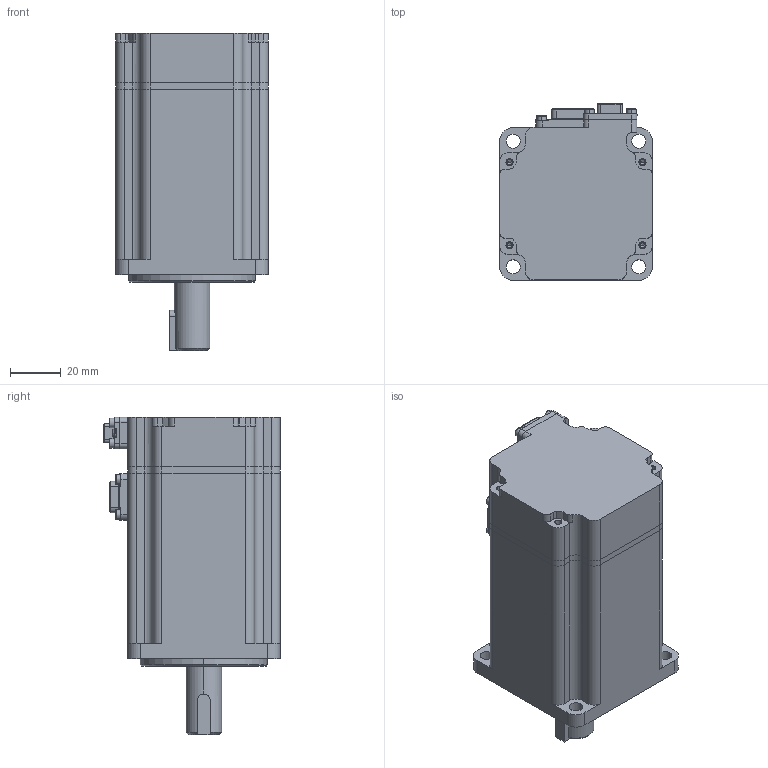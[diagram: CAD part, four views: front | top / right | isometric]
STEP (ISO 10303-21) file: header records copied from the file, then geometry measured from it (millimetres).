
FILE_DESCRIPTION (( 'STEP AP214' ), '1' );
FILE_NAME ('軞蚾.STEP', '2022-12-29T09:10:08', ( '' ), ( '' ), 'SwSTEP 2.0', 'SolidWorks 2022', '' );
FILE_SCHEMA (( 'AUTOMOTIVE_DESIGN' ));
Length unit declared in the file: millimetre
Products named in the file (8): 后端盖; sc-mc7p-a82g-00-信号底座; hexagon socket head cap screws gb_GB_FASTENER_SCREWS_HSHCS M2X6-N; 键; 编码器罩-锐鹰分体光编; 动力底座sc-mc6p-ae2g; 总装; 10109020756 机壳-60L51(侧边开孔)-毛塑-V1.0
Assembly tree (14 placements, depth 2):
  总装
    10109020756 机壳-60L51(侧边开孔)-毛塑-V1.0
    后端盖
    编码器罩-锐鹰分体光编
    键
    sc-mc7p-a82g-00-信号底座
    动力底座sc-mc6p-ae2g
    hexagon socket head cap screws gb_GB_FASTENER_SCREWS_HSHCS M2X6-N  x8
Bounding box: 60 x 69.3 x 125 mm (x, y, z)
Volume: 331962.8 mm3; surface area: 54138.5 mm2
Topology: 16 solids, 16 shells, 1779 faces, 4661 edges, 2967 vertices
Faces by surface type: plane 1009, cylinder 582, cone 92, torus 74, bspline 22
Entity records: 57637 total; most frequent: CARTESIAN_POINT 15808, ORIENTED_EDGE 8458, DIRECTION 8138, EDGE_CURVE 4229, VERTEX_POINT 2736, AXIS2_PLACEMENT_3D 2733, VECTOR 2672, LINE 2672
